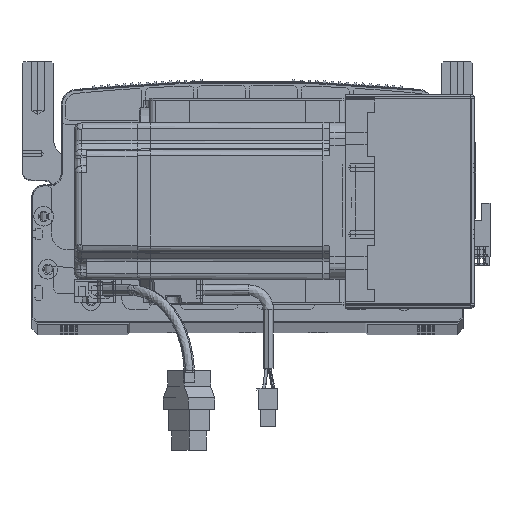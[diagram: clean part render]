
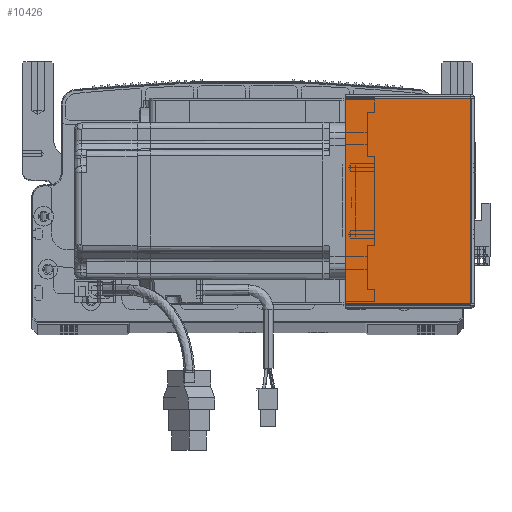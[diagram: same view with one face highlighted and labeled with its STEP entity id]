
A CAD part, top view. The second image highlights one B-rep face of the part: STEP entity #10426.
In plain terms, the highlighted planar face has unit normal (0, 0, 1) as drawn and (0, 0, -1) by its records, which use the part's own axes.
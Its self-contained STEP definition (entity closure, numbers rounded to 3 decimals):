
#233 = DIRECTION ( 'NONE',  ( 0., -1., 0. ) ) ;
#1984 = VERTEX_POINT ( 'NONE', #54169 ) ;
#2272 = DIRECTION ( 'NONE',  ( 1., 0., 0. ) ) ;
#6147 = VERTEX_POINT ( 'NONE', #84447 ) ;
#7219 = EDGE_CURVE ( 'NONE', #6147, #1984, #72855, .T. ) ;
#8724 = LINE ( 'NONE', #93779, #24294 ) ;
#10212 = ORIENTED_EDGE ( 'NONE', *, *, #7219, .T. ) ;
#10426 = ADVANCED_FACE ( 'NONE', ( #68340 ), #14600, .F. ) ;
#13713 = LINE ( 'NONE', #84057, #59247 ) ;
#14600 = PLANE ( 'NONE',  #63313 ) ;
#14615 = EDGE_LOOP ( 'NONE', ( #72062, #10212, #74830, #97419 ) ) ;
#16921 = CARTESIAN_POINT ( 'NONE',  ( 0., 0., -205.5 ) ) ;
#24294 = VECTOR ( 'NONE', #2272, 1000. ) ;
#26480 = VERTEX_POINT ( 'NONE', #82239 ) ;
#43667 = CARTESIAN_POINT ( 'NONE',  ( 64.5, 0.707, -205.5 ) ) ;
#43874 = VERTEX_POINT ( 'NONE', #43667 ) ;
#46983 = CARTESIAN_POINT ( 'NONE',  ( 0., 105.293, -205.5 ) ) ;
#47393 = DIRECTION ( 'NONE',  ( 0., -1., 0. ) ) ;
#49522 = EDGE_CURVE ( 'NONE', #1984, #43874, #13713, .T. ) ;
#54169 = CARTESIAN_POINT ( 'NONE',  ( 64.5, 105.293, -205.5 ) ) ;
#55051 = DIRECTION ( 'NONE',  ( 1., 0., 0. ) ) ;
#59247 = VECTOR ( 'NONE', #233, 1000. ) ;
#63313 = AXIS2_PLACEMENT_3D ( 'NONE', #16921, #70152, #55051 ) ;
#66668 = EDGE_CURVE ( 'NONE', #6147, #26480, #72705, .T. ) ;
#68340 = FACE_OUTER_BOUND ( 'NONE', #14615, .T. ) ;
#70152 = DIRECTION ( 'NONE',  ( 0., 0., 1. ) ) ;
#72062 = ORIENTED_EDGE ( 'NONE', *, *, #66668, .F. ) ;
#72705 = LINE ( 'NONE', #97965, #87032 ) ;
#72855 = LINE ( 'NONE', #46983, #87177 ) ;
#74050 = EDGE_CURVE ( 'NONE', #26480, #43874, #8724, .T. ) ;
#74830 = ORIENTED_EDGE ( 'NONE', *, *, #49522, .T. ) ;
#82239 = CARTESIAN_POINT ( 'NONE',  ( 0.737, 0.707, -205.5 ) ) ;
#83903 = DIRECTION ( 'NONE',  ( 1., 0., 0. ) ) ;
#84057 = CARTESIAN_POINT ( 'NONE',  ( 64.5, 0., -205.5 ) ) ;
#84447 = CARTESIAN_POINT ( 'NONE',  ( 0.737, 105.293, -205.5 ) ) ;
#87032 = VECTOR ( 'NONE', #47393, 1000. ) ;
#87177 = VECTOR ( 'NONE', #83903, 1000. ) ;
#93779 = CARTESIAN_POINT ( 'NONE',  ( 0., 0.707, -205.5 ) ) ;
#97419 = ORIENTED_EDGE ( 'NONE', *, *, #74050, .F. ) ;
#97965 = CARTESIAN_POINT ( 'NONE',  ( 0.737, 0., -205.5 ) ) ;
